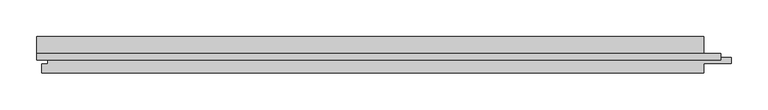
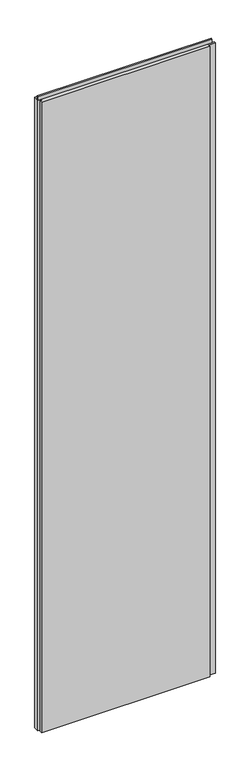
"""IFC4 building model written with IfcOpenShell, lengths in millimetres: plate geometry, Trimo_Qbiss Screen_Normal Panel-VERTICAL : HR - B."""

from ifc_helpers import new_model, si_unit, frame, origin, place, context, project, spatial, polyline, outline, extrude, source, transform, mapped, element, save


def plate_3b680a05(model_context):
    return source(origin(), model_context, "Body", "SweptSolid", [
        extrude(outline(polyline([(445.0, 97.0), (445.0, 102.6), (466.0, 102.6), (466.0, 97.0), (445.0, 97.0)])), frame((0.0, 0.0, 12.5), z_axis=(0.0, 0.0, 1.0), x_axis=(1.0, 0.0, 0.0)), (0.0, 0.0, 1.0), 3575.0),
        extrude(outline(polyline([(-467.0, 93.9), (-467.0, 102.6), (467.0, 102.6), (467.0, 93.9), (-467.0, 93.9)])), frame((0.0, 0.0, 3590.5), z_axis=(0.0, 0.0, 1.0), x_axis=(1.0, 0.0, 0.0)), (0.0, 0.0, 1.0), 19.0),
        extrude(outline(polyline([(444.0, 97.0), (481.5, 97.0), (481.5, 89.0), (444.0, 89.0), (444.0, 76.0), (-460.0, 76.0), (-460.0, 88.0), (-451.5, 88.0), (-451.5, 98.0), (-467.0, 98.0), (-467.0, 126.0), (444.0, 126.0), (444.0, 97.0)])), frame((0.0, 0.0, 12.5), z_axis=(0.0, 0.0, 1.0), x_axis=(1.0, 0.0, 0.0)), (0.0, 0.0, 1.0), 3575.0),
    ])


if __name__ == "__main__":
    model = new_model("IFC4")
    model_context = context("Model", 3, world=origin())
    ifc_project = project(units=[si_unit("LENGTHUNIT", "METRE", prefix="MILLI")], contexts=[model_context])
    site = spatial("IfcSite", under=ifc_project)
    building = spatial("IfcBuilding", under=site)
    placement = place(None, origin())
    plate_shape = plate_3b680a05(model_context)
    element("IfcPlate", 1, ObjectType="Trimo_Qbiss Screen_Normal Panel-VERTICAL : HR - B", at=placement, inside=building, context=model_context, shape_type="MappedRepresentation", body=[
        mapped(plate_shape, transform((0.0, 0.0, 0.0), x_axis=(1.0, 0.0, 0.0), y_axis=(0.0, 1.0, 0.0), z_axis=(0.0, 0.0, 1.0))),
    ])
    save(model, "model.ifc")
